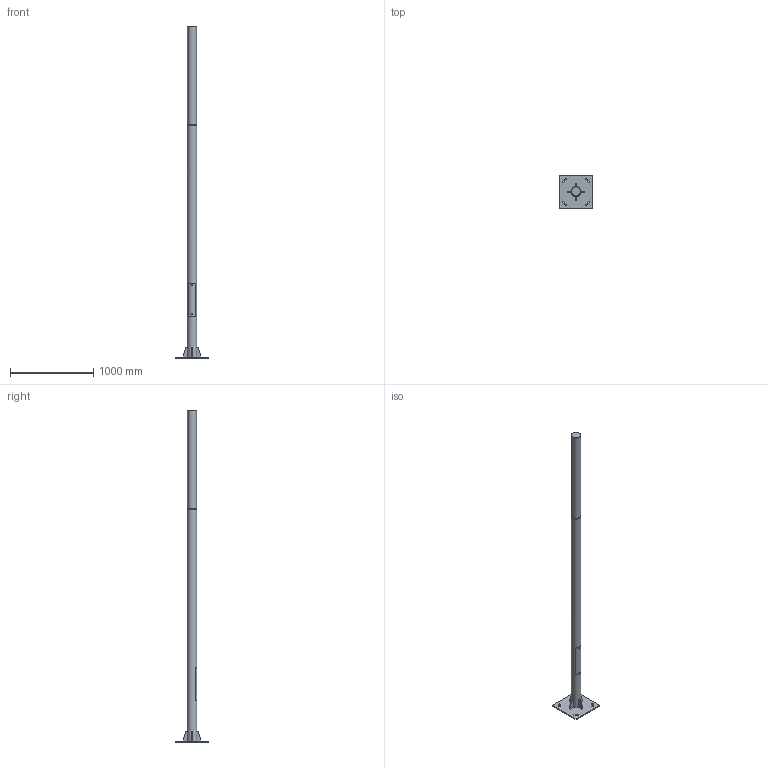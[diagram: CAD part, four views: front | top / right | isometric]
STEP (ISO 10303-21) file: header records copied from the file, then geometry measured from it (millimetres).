
FILE_DESCRIPTION(/* description */ (''),/* implementation_level */ '2;1');
FILE_NAME(/* name */ 'Lester 4000mm.step',/* time_stamp */ '2026-07-23T22:52:57+03:00',/* author */ (''),/* organization */ (''),/* preprocessor_version */ 'ST-DEVELOPER v20.1',/* originating_system */ 'Autodesk Translation Framework v15.8.0.0',/* authorisation */ '');
FILE_SCHEMA (('AUTOMOTIVE_DESIGN { 1 0 10303 214 3 1 1 }'));
Length unit declared in the file: millimetre
Products named in the file (1): Lester 4000mm
Bounding box: 400 x 400 x 4000 mm (x, y, z)
Volume: 42500717.7 mm3; surface area: 1868126.1 mm2
Topology: 8 solids, 8 shells, 105 faces, 244 edges, 159 vertices
Faces by surface type: plane 52, cylinder 27, bspline 24, cone 2
Full cylindrical faces by diameter (mm): 100 x1, 110 x1, 115 x1
Entity records: 5155 total; most frequent: CARTESIAN_POINT 2841, ORIENTED_EDGE 488, DIRECTION 411, EDGE_CURVE 244, VERTEX_POINT 159, LINE 137, VECTOR 137, AXIS2_PLACEMENT_3D 137
